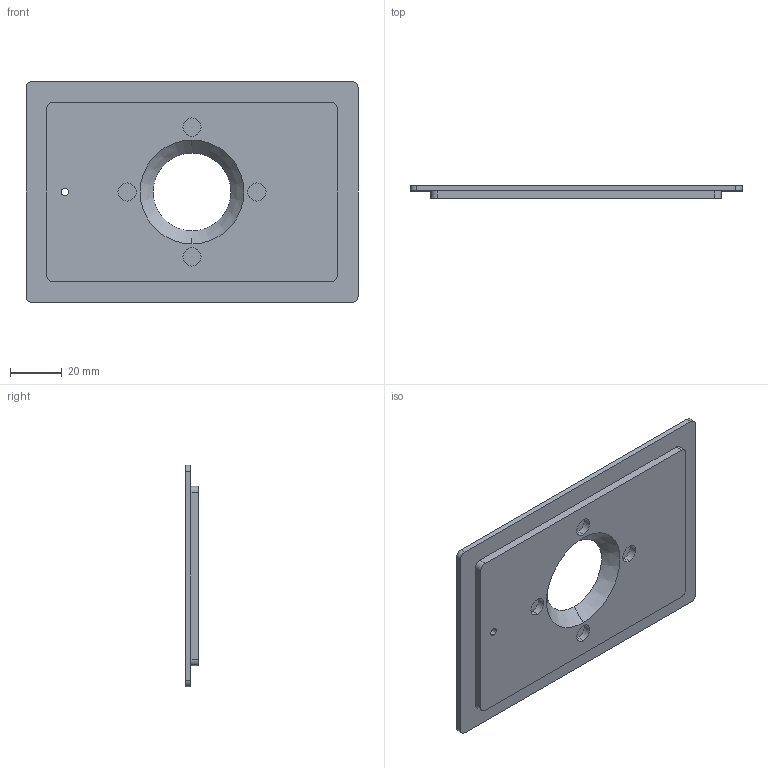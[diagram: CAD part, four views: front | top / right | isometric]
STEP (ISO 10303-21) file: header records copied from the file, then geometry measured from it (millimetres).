
FILE_DESCRIPTION (( 'STEP AP214' ), '1' );
FILE_NAME ('2019_miCube_Insert_GlassSlide_v2.STEP', '2019-05-27T07:31:56', ( '' ), ( '' ), 'SwSTEP 2.0', 'SolidWorks 2017', '' );
FILE_SCHEMA (( 'AUTOMOTIVE_DESIGN' ));
Length unit declared in the file: millimetre
Products named in the file (1): 2019_miCube_Insert_GlassSlide_v2
Bounding box: 127.8 x 5 x 85.2 mm (x, y, z)
Volume: 39950.1 mm3; surface area: 22791.4 mm2
Topology: 1 solids, 1 shells, 35 faces, 84 edges, 56 vertices
Faces by surface type: cylinder 18, plane 15, cone 2
Entity records: 1080 total; most frequent: DIRECTION 196, CARTESIAN_POINT 176, ORIENTED_EDGE 168, EDGE_CURVE 84, AXIS2_PLACEMENT_3D 76, VERTEX_POINT 56, VECTOR 44, LINE 44
